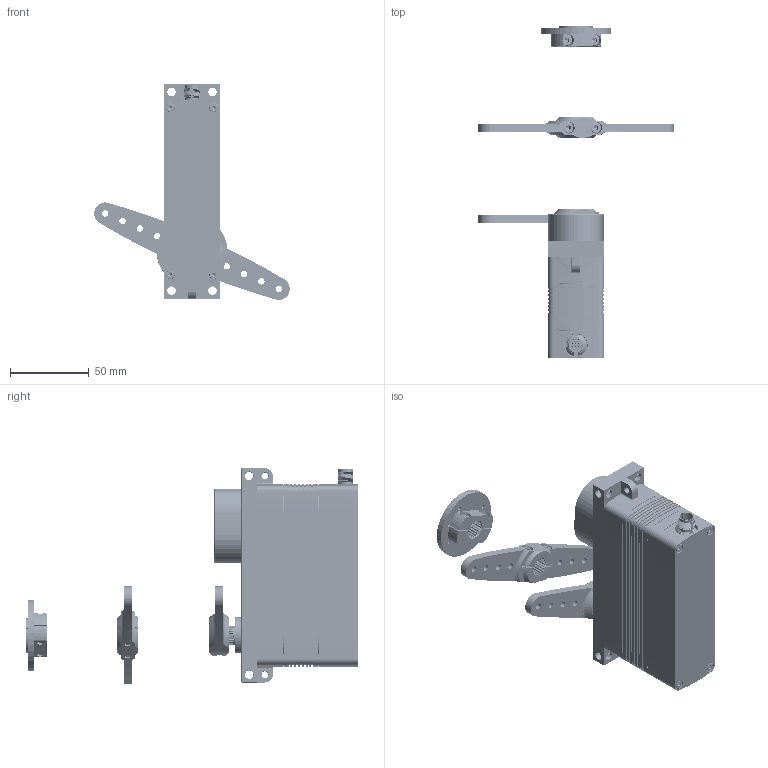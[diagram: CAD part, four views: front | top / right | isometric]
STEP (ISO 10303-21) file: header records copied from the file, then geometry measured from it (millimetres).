
FILE_DESCRIPTION (( 'STEP AP214' ), '1' );
FILE_NAME ('DA 36 LP_Servo with arm_08.STEP', '2024-02-13T14:33:35', ( '' ), ( '' ), 'SwSTEP 2.0', 'SolidWorks 2021', '' );
FILE_SCHEMA (( 'AUTOMOTIVE_DESIGN' ));
Length unit declared in the file: millimetre
Products named in the file (12): socket head cap screw_iso_ISO 4762 M4 x 12 - 12N; DA 30_Servoscheibe_413-4040-02; Teil108^DA 36 Low Profile_Servo_485-9000-08; socket head cap screw_din_DIN 912 M4 x 16 --- 16C; DA 30_Servohebel Einzelarm_413-4800-03; DA 30_Servohebel Einzelarm_413-4020-03; DA 36 LP_Servo with arm_08; din 912 m4 x 12 --- 12s_DIN 912 M4 x 12 --- 12S; Helicoil M4 x 8; DA 30_Servoscheibe_413-4140-02; DA 30_Servohebel Doppelarm_413-4900-02; DA 30_Servohebel Doppelarm_413-4930-02
Assembly tree (17 placements, depth 3):
  DA 36 LP_Servo with arm_08
    DA 30_Servohebel Einzelarm_413-4800-03
      DA 30_Servohebel Einzelarm_413-4020-03
      Helicoil M4 x 8
      socket head cap screw_iso_ISO 4762 M4 x 12 - 12N
    DA 30_Servohebel Doppelarm_413-4900-02
      DA 30_Servohebel Doppelarm_413-4930-02
      Helicoil M4 x 8  x2
      socket head cap screw_din_DIN 912 M4 x 16 --- 16C  x2
    DA 30_Servoscheibe_413-4140-02
      DA 30_Servoscheibe_413-4040-02
      din 912 m4 x 12 --- 12s_DIN 912 M4 x 12 --- 12S  x2
      Helicoil M4 x 8  x2
    Teil108^DA 36 Low Profile_Servo_485-9000-08
Bounding box: 124.05 x 210.5 x 136.91 mm (x, y, z)
Volume: 369273.9 mm3; surface area: 94375.6 mm2
Topology: 15 solids, 127 shells, 3612 faces, 8655 edges, 5109 vertices
Faces by surface type: cylinder 1167, bspline 1117, cone 758, plane 457, torus 103, sphere 10
Full cylindrical faces by diameter (mm): 0.8 x10, 2.5 x116, 3 x184, 3.2 x12, 3.3 x1, 4 x45, 4.2 x7, 5 x5, 5.3 x14, 5.5 x8, 6.2 x8, 7 x5, 7.5 x5, 9.428 x2, 10.4 x1, 12 x1, 14.4 x1, 23 x1, 45 x1
Entity records: 150716 total; most frequent: CARTESIAN_POINT 89268, ORIENTED_EDGE 11518, DIRECTION 11364, EDGE_CURVE 5759, AXIS2_PLACEMENT_3D 4817, EDGE_LOOP 4097, VERTEX_POINT 4090, FACE_OUTER_BOUND 3271
